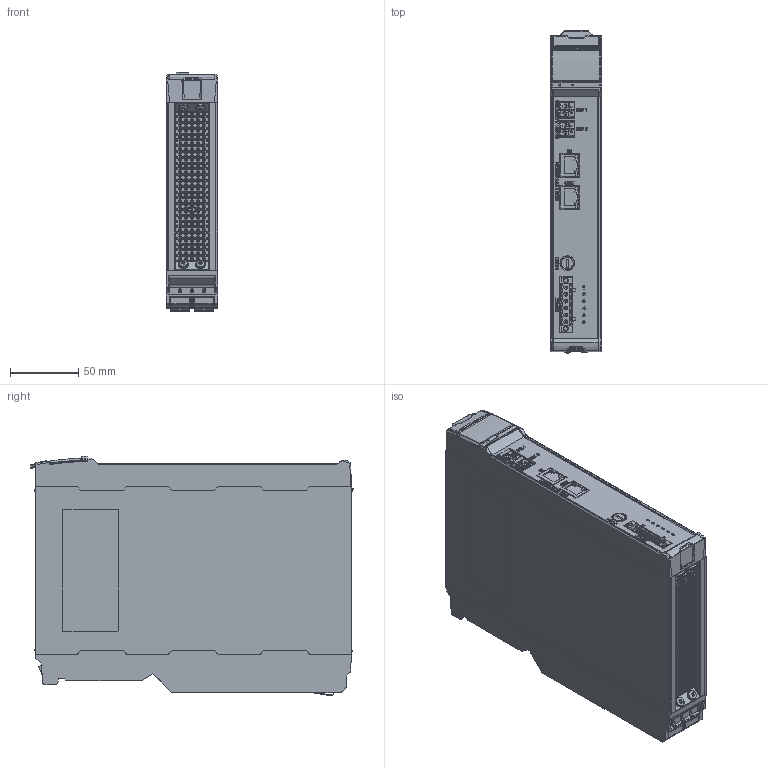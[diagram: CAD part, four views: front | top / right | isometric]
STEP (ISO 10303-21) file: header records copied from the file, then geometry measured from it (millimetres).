
FILE_DESCRIPTION (( 'STEP AP214' ), '1' );
FILE_NAME ('HX8320_20140114.STEP', '2014-01-14T16:44:50', ( 'ALTUS' ), ( '' ), 'SwSTEP 2.0', 'SolidWorks 2011', '' );
FILE_SCHEMA (( 'AUTOMOTIVE_DESIGN' ));
Length unit declared in the file: millimetre
Products named in the file (1): HX8320_20140114
Bounding box: 38.02 x 236.48 x 175.61 mm (x, y, z)
Volume: 1369593.3 mm3; surface area: 174784.7 mm2
Topology: 5 solids, 10 shells, 5640 faces, 15639 edges, 10135 vertices
Faces by surface type: plane 3137, cylinder 1480, bspline 795, sphere 115, cone 61, torus 52
Entity records: 269199 total; most frequent: CARTESIAN_POINT 74241, ORIENTED_EDGE 31178, DIRECTION 22992, EDGE_CURVE 15589, LINE 10374, VECTOR 10374, VERTEX_POINT 10127, AXIS2_PLACEMENT_3D 6309
